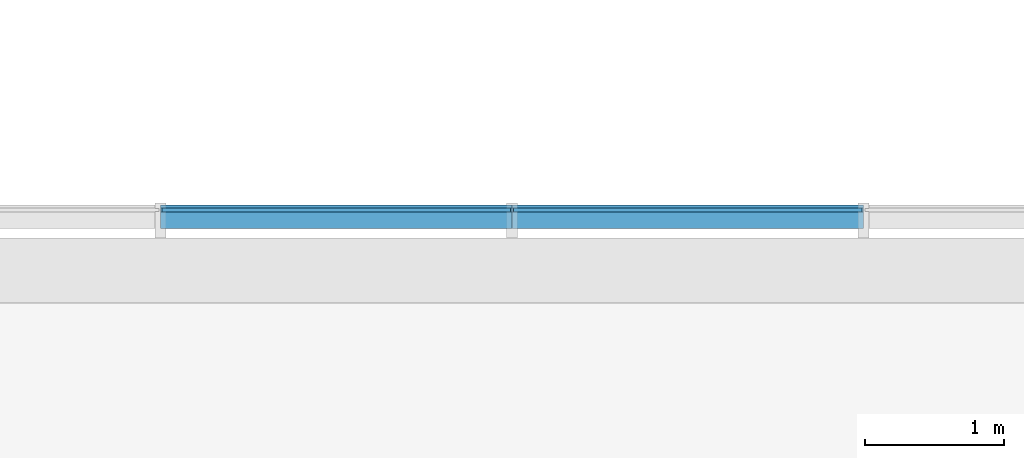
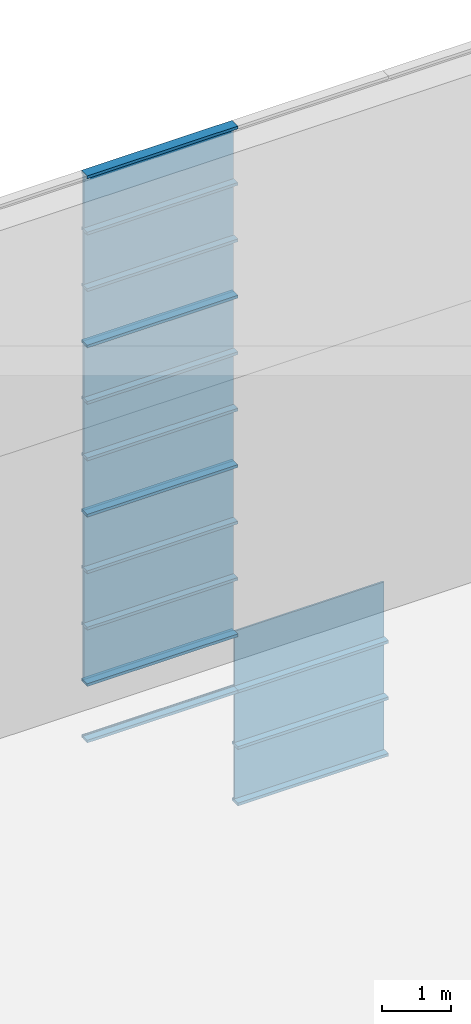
# One storey, part 63 of 105: 29 building element parts, 4 elements without a shape of their own.
"""IFC4 building model written with IfcOpenShell, lengths in millimetres."""

from ifc_helpers import new_model, entity, si_unit, converted_unit, derived_unit, direction, frame, origin_with_axes, place, context, subcontext, project, spatial, triangles, material, element, aggregate, save


model = new_model("IFC4")

# Units and contexts
model_context = context("Model", 3, precision=1e-05, world=origin_with_axes(), true_north=direction((0.0, 1.0)))
body_context = subcontext(model_context, "Body", "Model", "MODEL_VIEW")
ifc_project = project(units=[si_unit("LENGTHUNIT", "METRE", prefix="MILLI"), si_unit("AREAUNIT", "SQUARE_METRE"), si_unit("VOLUMEUNIT", "CUBIC_METRE"), converted_unit("PLANEANGLEUNIT", "DEGREE", entity("IfcLengthMeasure", 0.017453), si_unit("PLANEANGLEUNIT", "RADIAN"), dimensions=[0, 0, 0, 0, 0, 0, 0]), si_unit("SOLIDANGLEUNIT", "STERADIAN"), si_unit("MASSUNIT", "GRAM"), si_unit("TIMEUNIT", "SECOND"), si_unit("THERMODYNAMICTEMPERATUREUNIT", "DEGREE_CELSIUS"), si_unit("LUMINOUSINTENSITYUNIT", "LUMEN"), si_unit("POWERUNIT", "WATT"), derived_unit("THERMALTRANSMITTANCEUNIT", [(si_unit("POWERUNIT", "WATT"), 1), (si_unit("THERMODYNAMICTEMPERATUREUNIT", "KELVIN"), -1), (si_unit("AREAUNIT", "SQUARE_METRE"), -1)])], contexts=[model_context])

# Site, building, storey
site_placement = place(None, origin_with_axes())
site = spatial("IfcSite", under=ifc_project, at=site_placement, Name="Default Site", CompositionType="ELEMENT")
building_placement = place(site_placement, origin_with_axes())
building = spatial("IfcBuilding", under=site, at=building_placement, Name="Default Building", CompositionType="ELEMENT")
storey_placement = place(building_placement, origin_with_axes())
storey = spatial("IfcBuildingStorey", under=building, at=storey_placement, Name="OG - Story", CompositionType="ELEMENT", Elevation=0.0)

# Curtain wall, building element parts
curtain_wall_1_placement = place(storey_placement, origin_with_axes())
curtain_wall_1 = element("IfcCurtainWall", 1, at=curtain_wall_1_placement, inside=storey, Name="Fassade-004", PredefinedType="NOTDEFINED")
ifc_material_1 = material(Name="Normalglas")
building_element_part_1_placement = place(curtain_wall_1_placement, frame((33014.549222, -4389.262838, 0.0), z_axis=(0.0, 0.0, 1.0), x_axis=(1.0, 0.0, 0.0)))
building_element_part_1 = element("IfcBuildingElementPart", 2, at=building_element_part_1_placement, material=ifc_material_1, Name="Normalglas", PredefinedType="NOTDEFINED", context=body_context, shape_type="Tessellation", body=[
    triangles([(44200.526, -14.999, 995.0), (44200.526, 15.0, 995.0), (41694.211, 15.0, 995.0), (41694.211, -14.999, 995.0), (44200.526, -14.999, 5.0), (44200.526, 15.0, 5.0), (41694.211, 15.0, 5.0), (41694.211, -14.999, 5.0)], [[1, 2, 3], [1, 3, 4], [5, 6, 2], [5, 2, 1], [2, 6, 7], [2, 7, 3], [4, 3, 7], [4, 7, 8], [1, 4, 8], [1, 8, 5], [8, 7, 6], [8, 6, 5]], closed=False),
])
building_element_part_2_placement = place(curtain_wall_1_placement, frame((33014.549222, -4389.262838, 0.0), z_axis=(0.0, 0.0, 1.0), x_axis=(1.0, 0.0, 0.0)))
building_element_part_2 = element("IfcBuildingElementPart", 3, at=building_element_part_2_placement, material=ifc_material_1, Name="Normalglas", PredefinedType="NOTDEFINED", context=body_context, shape_type="Tessellation", body=[
    triangles([(44200.526, -14.999, 1995.0), (44200.526, 15.0, 1995.0), (41694.211, 15.0, 1995.0), (41694.211, -14.999, 1995.0), (44200.526, -14.999, 1005.0), (44200.526, 15.0, 1005.0), (41694.211, 15.0, 1005.0), (41694.211, -14.999, 1005.0)], [[1, 2, 3], [1, 3, 4], [5, 6, 2], [5, 2, 1], [2, 6, 7], [2, 7, 3], [4, 3, 7], [4, 7, 8], [1, 4, 8], [1, 8, 5], [8, 7, 6], [8, 6, 5]], closed=False),
])
building_element_part_3_placement = place(curtain_wall_1_placement, frame((33014.549222, -4389.262838, 0.0), z_axis=(0.0, 0.0, 1.0), x_axis=(1.0, 0.0, 0.0)))
building_element_part_3 = element("IfcBuildingElementPart", 4, at=building_element_part_3_placement, material=ifc_material_1, Name="Normalglas", PredefinedType="NOTDEFINED", context=body_context, shape_type="Tessellation", body=[
    triangles([(44200.526, -14.999, 2995.0), (44200.526, 15.0, 2995.0), (41694.211, 15.0, 2995.0), (41694.211, -14.999, 2995.0), (44200.526, -14.999, 2005.0), (44200.526, 15.0, 2005.0), (41694.211, 15.0, 2005.0), (41694.211, -14.999, 2005.0)], [[1, 2, 3], [1, 3, 4], [5, 6, 2], [5, 2, 1], [2, 6, 7], [2, 7, 3], [4, 3, 7], [4, 7, 8], [1, 4, 8], [1, 8, 5], [8, 7, 6], [8, 6, 5]], closed=False),
])
ifc_material_2 = material(Name="Blech")
building_element_part_4_placement = place(curtain_wall_1_placement, frame((33014.549222, -4389.262838, 0.0), z_axis=(0.0, 0.0, 1.0), x_axis=(1.0, 0.0, 0.0)))
building_element_part_4 = element("IfcBuildingElementPart", 5, at=building_element_part_4_placement, material=ifc_material_2, Name="Blech", PredefinedType="NOTDEFINED", context=body_context, shape_type="Tessellation", body=[
    triangles([(44210.526, 35.0, -24.999), (44210.526, 35.0, 25.0), (44210.526, 15.0, 25.0), (44210.526, 15.0, 5.0), (44210.526, -14.999, 5.0), (44210.526, -132.999, 25.0), (44210.526, -132.999, -24.999), (44210.526, -14.999, 25.0), (41684.211, -14.999, 5.0), (41684.211, -14.999, 25.0), (41684.211, -132.999, 25.0), (41684.211, -132.999, -24.999), (41684.211, 35.0, -24.999), (41684.211, 35.0, 25.0), (41684.211, 15.0, 25.0), (41684.211, 15.0, 5.0)], [[1, 2, 3], [1, 3, 4], [1, 4, 5], [1, 5, 6], [1, 6, 7], [8, 6, 5], [5, 9, 10], [5, 10, 8], [10, 11, 6], [10, 6, 8], [11, 12, 7], [11, 7, 6], [12, 13, 1], [12, 1, 7], [13, 14, 2], [13, 2, 1], [3, 2, 14], [3, 14, 15], [15, 16, 4], [15, 4, 3], [4, 16, 9], [4, 9, 5], [15, 16, 13], [13, 16, 9], [13, 9, 11], [11, 9, 10], [13, 11, 12], [15, 13, 14]], closed=False),
])
building_element_part_5_placement = place(curtain_wall_1_placement, frame((33014.549222, -4389.262838, 0.0), z_axis=(0.0, 0.0, 1.0), x_axis=(1.0, 0.0, 0.0)))
building_element_part_5 = element("IfcBuildingElementPart", 6, at=building_element_part_5_placement, material=ifc_material_2, Name="Blech", PredefinedType="NOTDEFINED", context=body_context, shape_type="Tessellation", body=[
    triangles([(44210.526, 35.0, 975.0), (44210.526, 15.0, 975.0), (44210.526, 35.0, 1025.0), (44210.526, 15.0, 995.0), (44210.526, 15.0, 1005.0), (44210.526, -14.999, 995.0), (44210.526, -14.999, 1005.0), (44210.526, -14.999, 1025.0), (44210.526, -14.999, 975.0), (44210.526, -132.999, 975.0), (44210.526, -132.999, 1025.0), (44210.526, 15.0, 1025.0), (41684.211, -14.999, 995.0), (41684.211, 15.0, 995.0), (41684.211, 15.0, 975.0), (41684.211, 35.0, 975.0), (41684.211, 35.0, 1025.0), (41684.211, 15.0, 1025.0), (41684.211, 15.0, 1005.0), (41684.211, -14.999, 1005.0), (41684.211, -14.999, 1025.0), (41684.211, -132.999, 1025.0), (41684.211, -132.999, 975.0), (41684.211, -14.999, 975.0)], [[1, 2, 3], [3, 2, 4], [3, 4, 5], [5, 4, 6], [5, 6, 7], [8, 9, 10], [8, 10, 11], [3, 5, 12], [6, 13, 14], [6, 14, 4], [4, 14, 15], [4, 15, 2], [15, 16, 1], [15, 1, 2], [1, 16, 17], [1, 17, 3], [18, 12, 3], [18, 3, 17], [12, 18, 19], [12, 19, 5], [7, 5, 19], [7, 19, 20], [8, 7, 20], [8, 20, 21], [8, 21, 22], [8, 22, 11], [11, 22, 23], [11, 23, 10], [9, 10, 23], [9, 23, 24], [9, 24, 13], [9, 13, 6], [17, 18, 16], [16, 18, 19], [16, 19, 14], [14, 19, 20], [14, 20, 13], [24, 21, 22], [24, 22, 23], [16, 14, 15]], closed=False),
])
building_element_part_6_placement = place(curtain_wall_1_placement, frame((33014.549222, -4389.262838, 0.0), z_axis=(0.0, 0.0, 1.0), x_axis=(1.0, 0.0, 0.0)))
building_element_part_6 = element("IfcBuildingElementPart", 7, at=building_element_part_6_placement, material=ifc_material_2, Name="Blech", PredefinedType="NOTDEFINED", context=body_context, shape_type="Tessellation", body=[
    triangles([(41684.211, 35.0, 1975.0), (41684.211, 15.0, 1975.0), (41684.211, 35.0, 2025.0), (41684.211, 15.0, 1995.0), (41684.211, 15.0, 2005.0), (41684.211, -14.999, 1995.0), (41684.211, -14.999, 2005.0), (41684.211, -14.999, 2025.0), (41684.211, -14.999, 1975.0), (41684.211, -132.999, 1975.0), (41684.211, -132.999, 2025.0), (41684.211, 15.0, 2025.0), (39157.895, -14.999, 1995.0), (39157.895, 15.0, 1995.0), (39157.895, 15.0, 1975.0), (39157.895, 35.0, 1975.0), (39157.895, 35.0, 2025.0), (39157.895, 15.0, 2025.0), (39157.895, 15.0, 2005.0), (39157.895, -14.999, 2005.0), (39157.895, -14.999, 2025.0), (39157.895, -132.999, 2025.0), (39157.895, -132.999, 1975.0), (39157.895, -14.999, 1975.0)], [[1, 2, 3], [3, 2, 4], [3, 4, 5], [5, 4, 6], [5, 6, 7], [8, 9, 10], [8, 10, 11], [3, 5, 12], [6, 13, 14], [6, 14, 4], [4, 14, 15], [4, 15, 2], [15, 16, 1], [15, 1, 2], [1, 16, 17], [1, 17, 3], [18, 12, 3], [18, 3, 17], [12, 18, 19], [12, 19, 5], [7, 5, 19], [7, 19, 20], [8, 7, 20], [8, 20, 21], [8, 21, 22], [8, 22, 11], [11, 22, 23], [11, 23, 10], [9, 10, 23], [9, 23, 24], [9, 24, 13], [9, 13, 6], [17, 18, 16], [16, 18, 19], [16, 19, 14], [14, 19, 20], [14, 20, 13], [24, 21, 22], [24, 22, 23], [16, 14, 15]], closed=False),
])
building_element_part_7_placement = place(curtain_wall_1_placement, frame((33014.549222, -4389.262838, 0.0), z_axis=(0.0, 0.0, 1.0), x_axis=(1.0, 0.0, 0.0)))
building_element_part_7 = element("IfcBuildingElementPart", 8, at=building_element_part_7_placement, material=ifc_material_2, Name="Blech", PredefinedType="NOTDEFINED", context=body_context, shape_type="Tessellation", body=[
    triangles([(41684.211, 15.0, 2975.0), (41684.211, 15.0, 2995.0), (41684.211, 35.0, 3025.0), (41684.211, -14.999, 2995.0), (41684.211, -132.999, 2975.0), (41684.211, -14.999, 2975.0), (41684.211, -132.999, 3025.0), (41684.211, 35.0, 2975.0), (39157.895, -14.999, 2995.0), (39157.895, 15.0, 2995.0), (39157.895, 15.0, 2975.0), (39157.895, 35.0, 2975.0), (39157.895, 35.0, 3025.0), (39157.895, -132.999, 3025.0), (39157.895, -132.999, 2975.0), (39157.895, -14.999, 2975.0)], [[1, 2, 3], [3, 2, 4], [3, 4, 5], [5, 4, 6], [3, 5, 7], [1, 3, 8], [2, 4, 9], [2, 9, 10], [11, 1, 2], [11, 2, 10], [1, 11, 12], [1, 12, 8], [13, 3, 8], [13, 8, 12], [14, 7, 3], [14, 3, 13], [15, 5, 7], [15, 7, 14], [16, 6, 5], [16, 5, 15], [4, 6, 16], [4, 16, 9], [13, 12, 11], [13, 11, 10], [13, 10, 9], [13, 9, 15], [13, 15, 14], [16, 15, 9]], closed=False),
])
building_element_part_8_placement = place(curtain_wall_1_placement, frame((33014.549222, -4389.262838, 0.0), z_axis=(0.0, 0.0, 1.0), x_axis=(1.0, 0.0, 0.0)))
building_element_part_8 = element("IfcBuildingElementPart", 9, at=building_element_part_8_placement, material=ifc_material_2, Name="Blech", PredefinedType="NOTDEFINED", context=body_context, shape_type="Tessellation", body=[
    triangles([(44210.526, 35.0, 1975.0), (44210.526, 15.0, 1975.0), (44210.526, 35.0, 2025.0), (44210.526, 15.0, 1995.0), (44210.526, 15.0, 2005.0), (44210.526, -14.999, 1995.0), (44210.526, -14.999, 2005.0), (44210.526, -14.999, 2025.0), (44210.526, -14.999, 1975.0), (44210.526, -132.999, 1975.0), (44210.526, -132.999, 2025.0), (44210.526, 15.0, 2025.0), (41684.211, -14.999, 1995.0), (41684.211, 15.0, 1995.0), (41684.211, 15.0, 1975.0), (41684.211, 35.0, 1975.0), (41684.211, 35.0, 2025.0), (41684.211, 15.0, 2025.0), (41684.211, 15.0, 2005.0), (41684.211, -14.999, 2005.0), (41684.211, -14.999, 2025.0), (41684.211, -132.999, 2025.0), (41684.211, -132.999, 1975.0), (41684.211, -14.999, 1975.0)], [[1, 2, 3], [3, 2, 4], [3, 4, 5], [5, 4, 6], [5, 6, 7], [8, 9, 10], [8, 10, 11], [3, 5, 12], [6, 13, 14], [6, 14, 4], [4, 14, 15], [4, 15, 2], [15, 16, 1], [15, 1, 2], [1, 16, 17], [1, 17, 3], [18, 12, 3], [18, 3, 17], [12, 18, 19], [12, 19, 5], [7, 5, 19], [7, 19, 20], [8, 7, 20], [8, 20, 21], [8, 21, 22], [8, 22, 11], [11, 22, 23], [11, 23, 10], [9, 10, 23], [9, 23, 24], [9, 24, 13], [9, 13, 6], [17, 18, 16], [16, 18, 19], [16, 19, 14], [14, 19, 20], [14, 20, 13], [24, 21, 22], [24, 22, 23], [16, 14, 15]], closed=False),
])
aggregate(curtain_wall_1, [building_element_part_1, building_element_part_2, building_element_part_3, building_element_part_4, building_element_part_5, building_element_part_6, building_element_part_7, building_element_part_8])

curtain_wall_2_placement = place(storey_placement, origin_with_axes())
curtain_wall_2 = element("IfcCurtainWall", 10, at=curtain_wall_2_placement, inside=storey, Name="Fassade-004", PredefinedType="NOTDEFINED")
building_element_part_9_placement = place(curtain_wall_2_placement, frame((33014.549222, -4389.262838, 3000.0), z_axis=(0.0, 0.0, 1.0), x_axis=(1.0, 0.0, 0.0)))
building_element_part_9 = element("IfcBuildingElementPart", 11, at=building_element_part_9_placement, material=ifc_material_1, Name="Normalglas", PredefinedType="NOTDEFINED", context=body_context, shape_type="Tessellation", body=[
    triangles([(41674.211, -14.999, 995.0), (41674.211, 15.0, 995.0), (39167.895, 15.0, 995.0), (39167.895, -14.999, 995.0), (41674.211, -14.999, 5.0), (41674.211, 15.0, 5.0), (39167.895, 15.0, 5.0), (39167.895, -14.999, 5.0)], [[1, 2, 3], [1, 3, 4], [5, 6, 2], [5, 2, 1], [2, 6, 7], [2, 7, 3], [4, 3, 7], [4, 7, 8], [1, 4, 8], [1, 8, 5], [8, 7, 6], [8, 6, 5]], closed=False),
])
building_element_part_10_placement = place(curtain_wall_2_placement, frame((33014.549222, -4389.262838, 3000.0), z_axis=(0.0, 0.0, 1.0), x_axis=(1.0, 0.0, 0.0)))
building_element_part_10 = element("IfcBuildingElementPart", 12, at=building_element_part_10_placement, material=ifc_material_1, Name="Normalglas", PredefinedType="NOTDEFINED", context=body_context, shape_type="Tessellation", body=[
    triangles([(41674.211, -14.999, 1995.0), (41674.211, 15.0, 1995.0), (39167.895, 15.0, 1995.0), (39167.895, -14.999, 1995.0), (41674.211, -14.999, 1005.0), (41674.211, 15.0, 1005.0), (39167.895, 15.0, 1005.0), (39167.895, -14.999, 1005.0)], [[1, 2, 3], [1, 3, 4], [5, 6, 2], [5, 2, 1], [2, 6, 7], [2, 7, 3], [4, 3, 7], [4, 7, 8], [1, 4, 8], [1, 8, 5], [8, 7, 6], [8, 6, 5]], closed=False),
])
building_element_part_11_placement = place(curtain_wall_2_placement, frame((33014.549222, -4389.262838, 3000.0), z_axis=(0.0, 0.0, 1.0), x_axis=(1.0, 0.0, 0.0)))
building_element_part_11 = element("IfcBuildingElementPart", 13, at=building_element_part_11_placement, material=ifc_material_1, Name="Normalglas", PredefinedType="NOTDEFINED", context=body_context, shape_type="Tessellation", body=[
    triangles([(41674.211, -14.999, 2995.0), (41674.211, 15.0, 2995.0), (39167.895, 15.0, 2995.0), (39167.895, -14.999, 2995.0), (41674.211, -14.999, 2005.0), (41674.211, 15.0, 2005.0), (39167.895, 15.0, 2005.0), (39167.895, -14.999, 2005.0)], [[1, 2, 3], [1, 3, 4], [5, 6, 2], [5, 2, 1], [2, 6, 7], [2, 7, 3], [4, 3, 7], [4, 7, 8], [1, 4, 8], [1, 8, 5], [8, 7, 6], [8, 6, 5]], closed=False),
])
building_element_part_12_placement = place(curtain_wall_2_placement, frame((33014.549222, -4389.262838, 3000.0), z_axis=(0.0, 0.0, 1.0), x_axis=(1.0, 0.0, 0.0)))
building_element_part_12 = element("IfcBuildingElementPart", 14, at=building_element_part_12_placement, material=ifc_material_2, Name="Blech", PredefinedType="NOTDEFINED", context=body_context, shape_type="Tessellation", body=[
    triangles([(41684.211, 35.0, -24.999), (41684.211, 35.0, 25.0), (41684.211, 15.0, 25.0), (41684.211, 15.0, 5.0), (41684.211, -14.999, 5.0), (41684.211, -132.999, 25.0), (41684.211, -132.999, -24.999), (41684.211, -14.999, 25.0), (39157.895, -14.999, 5.0), (39157.895, -14.999, 25.0), (39157.895, -132.999, 25.0), (39157.895, -132.999, -24.999), (39157.895, 35.0, -24.999), (39157.895, 35.0, 25.0), (39157.895, 15.0, 25.0), (39157.895, 15.0, 5.0)], [[1, 2, 3], [1, 3, 4], [1, 4, 5], [1, 5, 6], [1, 6, 7], [8, 6, 5], [5, 9, 10], [5, 10, 8], [10, 11, 6], [10, 6, 8], [11, 12, 7], [11, 7, 6], [12, 13, 1], [12, 1, 7], [13, 14, 2], [13, 2, 1], [3, 2, 14], [3, 14, 15], [15, 16, 4], [15, 4, 3], [4, 16, 9], [4, 9, 5], [15, 16, 13], [13, 16, 9], [13, 9, 11], [11, 9, 10], [13, 11, 12], [15, 13, 14]], closed=False),
])
building_element_part_13_placement = place(curtain_wall_2_placement, frame((33014.549222, -4389.262838, 3000.0), z_axis=(0.0, 0.0, 1.0), x_axis=(1.0, 0.0, 0.0)))
building_element_part_13 = element("IfcBuildingElementPart", 15, at=building_element_part_13_placement, material=ifc_material_2, Name="Blech", PredefinedType="NOTDEFINED", context=body_context, shape_type="Tessellation", body=[
    triangles([(41684.211, 35.0, 975.0), (41684.211, 15.0, 975.0), (41684.211, 35.0, 1025.0), (41684.211, 15.0, 995.0), (41684.211, 15.0, 1005.0), (41684.211, -14.999, 995.0), (41684.211, -14.999, 1005.0), (41684.211, -14.999, 1025.0), (41684.211, -14.999, 975.0), (41684.211, -132.999, 975.0), (41684.211, -132.999, 1025.0), (41684.211, 15.0, 1025.0), (39157.895, -14.999, 995.0), (39157.895, 15.0, 995.0), (39157.895, 15.0, 975.0), (39157.895, 35.0, 975.0), (39157.895, 35.0, 1025.0), (39157.895, 15.0, 1025.0), (39157.895, 15.0, 1005.0), (39157.895, -14.999, 1005.0), (39157.895, -14.999, 1025.0), (39157.895, -132.999, 1025.0), (39157.895, -132.999, 975.0), (39157.895, -14.999, 975.0)], [[1, 2, 3], [3, 2, 4], [3, 4, 5], [5, 4, 6], [5, 6, 7], [8, 9, 10], [8, 10, 11], [3, 5, 12], [6, 13, 14], [6, 14, 4], [4, 14, 15], [4, 15, 2], [15, 16, 1], [15, 1, 2], [1, 16, 17], [1, 17, 3], [18, 12, 3], [18, 3, 17], [12, 18, 19], [12, 19, 5], [7, 5, 19], [7, 19, 20], [8, 7, 20], [8, 20, 21], [8, 21, 22], [8, 22, 11], [11, 22, 23], [11, 23, 10], [9, 10, 23], [9, 23, 24], [9, 24, 13], [9, 13, 6], [17, 18, 16], [16, 18, 19], [16, 19, 14], [14, 19, 20], [14, 20, 13], [24, 21, 22], [24, 22, 23], [16, 14, 15]], closed=False),
])
building_element_part_14_placement = place(curtain_wall_2_placement, frame((33014.549222, -4389.262838, 3000.0), z_axis=(0.0, 0.0, 1.0), x_axis=(1.0, 0.0, 0.0)))
building_element_part_14 = element("IfcBuildingElementPart", 16, at=building_element_part_14_placement, material=ifc_material_2, Name="Blech", PredefinedType="NOTDEFINED", context=body_context, shape_type="Tessellation", body=[
    triangles([(41684.211, 35.0, 1975.0), (41684.211, 15.0, 1975.0), (41684.211, 35.0, 2025.0), (41684.211, 15.0, 1995.0), (41684.211, 15.0, 2005.0), (41684.211, -14.999, 1995.0), (41684.211, -14.999, 2005.0), (41684.211, -14.999, 2025.0), (41684.211, -14.999, 1975.0), (41684.211, -132.999, 1975.0), (41684.211, -132.999, 2025.0), (41684.211, 15.0, 2025.0), (39157.895, -14.999, 1995.0), (39157.895, 15.0, 1995.0), (39157.895, 15.0, 1975.0), (39157.895, 35.0, 1975.0), (39157.895, 35.0, 2025.0), (39157.895, 15.0, 2025.0), (39157.895, 15.0, 2005.0), (39157.895, -14.999, 2005.0), (39157.895, -14.999, 2025.0), (39157.895, -132.999, 2025.0), (39157.895, -132.999, 1975.0), (39157.895, -14.999, 1975.0)], [[1, 2, 3], [3, 2, 4], [3, 4, 5], [5, 4, 6], [5, 6, 7], [8, 9, 10], [8, 10, 11], [3, 5, 12], [6, 13, 14], [6, 14, 4], [4, 14, 15], [4, 15, 2], [15, 16, 1], [15, 1, 2], [1, 16, 17], [1, 17, 3], [18, 12, 3], [18, 3, 17], [12, 18, 19], [12, 19, 5], [7, 5, 19], [7, 19, 20], [8, 7, 20], [8, 20, 21], [8, 21, 22], [8, 22, 11], [11, 22, 23], [11, 23, 10], [9, 10, 23], [9, 23, 24], [9, 24, 13], [9, 13, 6], [17, 18, 16], [16, 18, 19], [16, 19, 14], [14, 19, 20], [14, 20, 13], [24, 21, 22], [24, 22, 23], [16, 14, 15]], closed=False),
])
building_element_part_15_placement = place(curtain_wall_2_placement, frame((33014.549222, -4389.262838, 3000.0), z_axis=(0.0, 0.0, 1.0), x_axis=(1.0, 0.0, 0.0)))
building_element_part_15 = element("IfcBuildingElementPart", 17, at=building_element_part_15_placement, material=ifc_material_2, Name="Blech", PredefinedType="NOTDEFINED", context=body_context, shape_type="Tessellation", body=[
    triangles([(41684.211, 15.0, 2975.0), (41684.211, 15.0, 2995.0), (41684.211, 35.0, 3025.0), (41684.211, -14.999, 2995.0), (41684.211, -132.999, 2975.0), (41684.211, -14.999, 2975.0), (41684.211, -132.999, 3025.0), (41684.211, 35.0, 2975.0), (39157.895, -14.999, 2995.0), (39157.895, 15.0, 2995.0), (39157.895, 15.0, 2975.0), (39157.895, 35.0, 2975.0), (39157.895, 35.0, 3025.0), (39157.895, -132.999, 3025.0), (39157.895, -132.999, 2975.0), (39157.895, -14.999, 2975.0)], [[1, 2, 3], [3, 2, 4], [3, 4, 5], [5, 4, 6], [3, 5, 7], [1, 3, 8], [2, 4, 9], [2, 9, 10], [11, 1, 2], [11, 2, 10], [1, 11, 12], [1, 12, 8], [13, 3, 8], [13, 8, 12], [14, 7, 3], [14, 3, 13], [15, 5, 7], [15, 7, 14], [16, 6, 5], [16, 5, 15], [4, 6, 16], [4, 16, 9], [13, 12, 11], [13, 11, 10], [13, 10, 9], [13, 9, 15], [13, 15, 14], [16, 15, 9]], closed=False),
])
aggregate(curtain_wall_2, [building_element_part_9, building_element_part_10, building_element_part_11, building_element_part_12, building_element_part_13, building_element_part_14, building_element_part_15])

curtain_wall_3_placement = place(storey_placement, origin_with_axes())
curtain_wall_3 = element("IfcCurtainWall", 18, at=curtain_wall_3_placement, inside=storey, Name="Fassade-004", PredefinedType="NOTDEFINED")
building_element_part_16_placement = place(curtain_wall_3_placement, frame((33014.549222, -4389.262838, 6000.0), z_axis=(0.0, 0.0, 1.0), x_axis=(1.0, 0.0, 0.0)))
building_element_part_16 = element("IfcBuildingElementPart", 19, at=building_element_part_16_placement, material=ifc_material_1, Name="Normalglas", PredefinedType="NOTDEFINED", context=body_context, shape_type="Tessellation", body=[
    triangles([(41674.211, -14.999, 995.0), (41674.211, 15.0, 995.0), (39167.895, 15.0, 995.0), (39167.895, -14.999, 995.0), (41674.211, -14.999, 5.0), (41674.211, 15.0, 5.0), (39167.895, 15.0, 5.0), (39167.895, -14.999, 5.0)], [[1, 2, 3], [1, 3, 4], [5, 6, 2], [5, 2, 1], [2, 6, 7], [2, 7, 3], [4, 3, 7], [4, 7, 8], [1, 4, 8], [1, 8, 5], [8, 7, 6], [8, 6, 5]], closed=False),
])
building_element_part_17_placement = place(curtain_wall_3_placement, frame((33014.549222, -4389.262838, 6000.0), z_axis=(0.0, 0.0, 1.0), x_axis=(1.0, 0.0, 0.0)))
building_element_part_17 = element("IfcBuildingElementPart", 20, at=building_element_part_17_placement, material=ifc_material_1, Name="Normalglas", PredefinedType="NOTDEFINED", context=body_context, shape_type="Tessellation", body=[
    triangles([(41674.211, -14.999, 1995.0), (41674.211, 15.0, 1995.0), (39167.895, 15.0, 1995.0), (39167.895, -14.999, 1995.0), (41674.211, -14.999, 1005.0), (41674.211, 15.0, 1005.0), (39167.895, 15.0, 1005.0), (39167.895, -14.999, 1005.0)], [[1, 2, 3], [1, 3, 4], [5, 6, 2], [5, 2, 1], [2, 6, 7], [2, 7, 3], [4, 3, 7], [4, 7, 8], [1, 4, 8], [1, 8, 5], [8, 7, 6], [8, 6, 5]], closed=False),
])
building_element_part_18_placement = place(curtain_wall_3_placement, frame((33014.549222, -4389.262838, 6000.0), z_axis=(0.0, 0.0, 1.0), x_axis=(1.0, 0.0, 0.0)))
building_element_part_18 = element("IfcBuildingElementPart", 21, at=building_element_part_18_placement, material=ifc_material_1, Name="Normalglas", PredefinedType="NOTDEFINED", context=body_context, shape_type="Tessellation", body=[
    triangles([(41674.211, -14.999, 2995.0), (41674.211, 15.0, 2995.0), (39167.895, 15.0, 2995.0), (39167.895, -14.999, 2995.0), (41674.211, -14.999, 2005.0), (41674.211, 15.0, 2005.0), (39167.895, 15.0, 2005.0), (39167.895, -14.999, 2005.0)], [[1, 2, 3], [1, 3, 4], [5, 6, 2], [5, 2, 1], [2, 6, 7], [2, 7, 3], [4, 3, 7], [4, 7, 8], [1, 4, 8], [1, 8, 5], [8, 7, 6], [8, 6, 5]], closed=False),
])
building_element_part_19_placement = place(curtain_wall_3_placement, frame((33014.549222, -4389.262838, 6000.0), z_axis=(0.0, 0.0, 1.0), x_axis=(1.0, 0.0, 0.0)))
building_element_part_19 = element("IfcBuildingElementPart", 22, at=building_element_part_19_placement, material=ifc_material_2, Name="Blech", PredefinedType="NOTDEFINED", context=body_context, shape_type="Tessellation", body=[
    triangles([(41684.211, 35.0, -24.999), (41684.211, 35.0, 25.0), (41684.211, 15.0, 25.0), (41684.211, 15.0, 5.0), (41684.211, -14.999, 5.0), (41684.211, -132.999, 25.0), (41684.211, -132.999, -24.999), (41684.211, -14.999, 25.0), (39157.895, -14.999, 5.0), (39157.895, -14.999, 25.0), (39157.895, -132.999, 25.0), (39157.895, -132.999, -24.999), (39157.895, 35.0, -24.999), (39157.895, 35.0, 25.0), (39157.895, 15.0, 25.0), (39157.895, 15.0, 5.0)], [[1, 2, 3], [1, 3, 4], [1, 4, 5], [1, 5, 6], [1, 6, 7], [8, 6, 5], [5, 9, 10], [5, 10, 8], [10, 11, 6], [10, 6, 8], [11, 12, 7], [11, 7, 6], [12, 13, 1], [12, 1, 7], [13, 14, 2], [13, 2, 1], [3, 2, 14], [3, 14, 15], [15, 16, 4], [15, 4, 3], [4, 16, 9], [4, 9, 5], [15, 16, 13], [13, 16, 9], [13, 9, 11], [11, 9, 10], [13, 11, 12], [15, 13, 14]], closed=False),
])
building_element_part_20_placement = place(curtain_wall_3_placement, frame((33014.549222, -4389.262838, 6000.0), z_axis=(0.0, 0.0, 1.0), x_axis=(1.0, 0.0, 0.0)))
building_element_part_20 = element("IfcBuildingElementPart", 23, at=building_element_part_20_placement, material=ifc_material_2, Name="Blech", PredefinedType="NOTDEFINED", context=body_context, shape_type="Tessellation", body=[
    triangles([(41684.211, 35.0, 975.0), (41684.211, 15.0, 975.0), (41684.211, 35.0, 1025.0), (41684.211, 15.0, 995.0), (41684.211, 15.0, 1005.0), (41684.211, -14.999, 995.0), (41684.211, -14.999, 1005.0), (41684.211, -14.999, 1025.0), (41684.211, -14.999, 975.0), (41684.211, -132.999, 975.0), (41684.211, -132.999, 1025.0), (41684.211, 15.0, 1025.0), (39157.895, -14.999, 995.0), (39157.895, 15.0, 995.0), (39157.895, 15.0, 975.0), (39157.895, 35.0, 975.0), (39157.895, 35.0, 1025.0), (39157.895, 15.0, 1025.0), (39157.895, 15.0, 1005.0), (39157.895, -14.999, 1005.0), (39157.895, -14.999, 1025.0), (39157.895, -132.999, 1025.0), (39157.895, -132.999, 975.0), (39157.895, -14.999, 975.0)], [[1, 2, 3], [3, 2, 4], [3, 4, 5], [5, 4, 6], [5, 6, 7], [8, 9, 10], [8, 10, 11], [3, 5, 12], [6, 13, 14], [6, 14, 4], [4, 14, 15], [4, 15, 2], [15, 16, 1], [15, 1, 2], [1, 16, 17], [1, 17, 3], [18, 12, 3], [18, 3, 17], [12, 18, 19], [12, 19, 5], [7, 5, 19], [7, 19, 20], [8, 7, 20], [8, 20, 21], [8, 21, 22], [8, 22, 11], [11, 22, 23], [11, 23, 10], [9, 10, 23], [9, 23, 24], [9, 24, 13], [9, 13, 6], [17, 18, 16], [16, 18, 19], [16, 19, 14], [14, 19, 20], [14, 20, 13], [24, 21, 22], [24, 22, 23], [16, 14, 15]], closed=False),
])
building_element_part_21_placement = place(curtain_wall_3_placement, frame((33014.549222, -4389.262838, 6000.0), z_axis=(0.0, 0.0, 1.0), x_axis=(1.0, 0.0, 0.0)))
building_element_part_21 = element("IfcBuildingElementPart", 24, at=building_element_part_21_placement, material=ifc_material_2, Name="Blech", PredefinedType="NOTDEFINED", context=body_context, shape_type="Tessellation", body=[
    triangles([(41684.211, 35.0, 1975.0), (41684.211, 15.0, 1975.0), (41684.211, 35.0, 2025.0), (41684.211, 15.0, 1995.0), (41684.211, 15.0, 2005.0), (41684.211, -14.999, 1995.0), (41684.211, -14.999, 2005.0), (41684.211, -14.999, 2025.0), (41684.211, -14.999, 1975.0), (41684.211, -132.999, 1975.0), (41684.211, -132.999, 2025.0), (41684.211, 15.0, 2025.0), (39157.895, -14.999, 1995.0), (39157.895, 15.0, 1995.0), (39157.895, 15.0, 1975.0), (39157.895, 35.0, 1975.0), (39157.895, 35.0, 2025.0), (39157.895, 15.0, 2025.0), (39157.895, 15.0, 2005.0), (39157.895, -14.999, 2005.0), (39157.895, -14.999, 2025.0), (39157.895, -132.999, 2025.0), (39157.895, -132.999, 1975.0), (39157.895, -14.999, 1975.0)], [[1, 2, 3], [3, 2, 4], [3, 4, 5], [5, 4, 6], [5, 6, 7], [8, 9, 10], [8, 10, 11], [3, 5, 12], [6, 13, 14], [6, 14, 4], [4, 14, 15], [4, 15, 2], [15, 16, 1], [15, 1, 2], [1, 16, 17], [1, 17, 3], [18, 12, 3], [18, 3, 17], [12, 18, 19], [12, 19, 5], [7, 5, 19], [7, 19, 20], [8, 7, 20], [8, 20, 21], [8, 21, 22], [8, 22, 11], [11, 22, 23], [11, 23, 10], [9, 10, 23], [9, 23, 24], [9, 24, 13], [9, 13, 6], [17, 18, 16], [16, 18, 19], [16, 19, 14], [14, 19, 20], [14, 20, 13], [24, 21, 22], [24, 22, 23], [16, 14, 15]], closed=False),
])
building_element_part_22_placement = place(curtain_wall_3_placement, frame((33014.549222, -4389.262838, 6000.0), z_axis=(0.0, 0.0, 1.0), x_axis=(1.0, 0.0, 0.0)))
building_element_part_22 = element("IfcBuildingElementPart", 25, at=building_element_part_22_placement, material=ifc_material_2, Name="Blech", PredefinedType="NOTDEFINED", context=body_context, shape_type="Tessellation", body=[
    triangles([(41684.211, 15.0, 2975.0), (41684.211, 15.0, 2995.0), (41684.211, 35.0, 3025.0), (41684.211, -14.999, 2995.0), (41684.211, -132.999, 2975.0), (41684.211, -14.999, 2975.0), (41684.211, -132.999, 3025.0), (41684.211, 35.0, 2975.0), (39157.895, -14.999, 2995.0), (39157.895, 15.0, 2995.0), (39157.895, 15.0, 2975.0), (39157.895, 35.0, 2975.0), (39157.895, 35.0, 3025.0), (39157.895, -132.999, 3025.0), (39157.895, -132.999, 2975.0), (39157.895, -14.999, 2975.0)], [[1, 2, 3], [3, 2, 4], [3, 4, 5], [5, 4, 6], [3, 5, 7], [1, 3, 8], [2, 4, 9], [2, 9, 10], [11, 1, 2], [11, 2, 10], [1, 11, 12], [1, 12, 8], [13, 3, 8], [13, 8, 12], [14, 7, 3], [14, 3, 13], [15, 5, 7], [15, 7, 14], [16, 6, 5], [16, 5, 15], [4, 6, 16], [4, 16, 9], [13, 12, 11], [13, 11, 10], [13, 10, 9], [13, 9, 15], [13, 15, 14], [16, 15, 9]], closed=False),
])
aggregate(curtain_wall_3, [building_element_part_16, building_element_part_17, building_element_part_18, building_element_part_19, building_element_part_20, building_element_part_21, building_element_part_22])

curtain_wall_4_placement = place(storey_placement, origin_with_axes())
curtain_wall_4 = element("IfcCurtainWall", 26, at=curtain_wall_4_placement, inside=storey, Name="Fassade-004", PredefinedType="NOTDEFINED")
building_element_part_23_placement = place(curtain_wall_4_placement, frame((33014.549222, -4389.262838, 9000.0), z_axis=(0.0, 0.0, 1.0), x_axis=(1.0, 0.0, 0.0)))
building_element_part_23 = element("IfcBuildingElementPart", 27, at=building_element_part_23_placement, material=ifc_material_1, Name="Normalglas", PredefinedType="NOTDEFINED", context=body_context, shape_type="Tessellation", body=[
    triangles([(41674.211, -14.999, 995.0), (41674.211, 15.0, 995.0), (39167.895, 15.0, 995.0), (39167.895, -14.999, 995.0), (41674.211, -14.999, 5.0), (41674.211, 15.0, 5.0), (39167.895, 15.0, 5.0), (39167.895, -14.999, 5.0)], [[1, 2, 3], [1, 3, 4], [5, 6, 2], [5, 2, 1], [2, 6, 7], [2, 7, 3], [4, 3, 7], [4, 7, 8], [1, 4, 8], [1, 8, 5], [8, 7, 6], [8, 6, 5]], closed=False),
])
building_element_part_24_placement = place(curtain_wall_4_placement, frame((33014.549222, -4389.262838, 9000.0), z_axis=(0.0, 0.0, 1.0), x_axis=(1.0, 0.0, 0.0)))
building_element_part_24 = element("IfcBuildingElementPart", 28, at=building_element_part_24_placement, material=ifc_material_1, Name="Normalglas", PredefinedType="NOTDEFINED", context=body_context, shape_type="Tessellation", body=[
    triangles([(41674.211, -14.999, 1995.0), (41674.211, 15.0, 1995.0), (39167.895, 15.0, 1995.0), (39167.895, -14.999, 1995.0), (41674.211, -14.999, 1005.0), (41674.211, 15.0, 1005.0), (39167.895, 15.0, 1005.0), (39167.895, -14.999, 1005.0)], [[1, 2, 3], [1, 3, 4], [5, 6, 2], [5, 2, 1], [2, 6, 7], [2, 7, 3], [4, 3, 7], [4, 7, 8], [1, 4, 8], [1, 8, 5], [8, 7, 6], [8, 6, 5]], closed=False),
])
building_element_part_25_placement = place(curtain_wall_4_placement, frame((33014.549222, -4389.262838, 9000.0), z_axis=(0.0, 0.0, 1.0), x_axis=(1.0, 0.0, 0.0)))
building_element_part_25 = element("IfcBuildingElementPart", 29, at=building_element_part_25_placement, material=ifc_material_1, Name="Normalglas", PredefinedType="NOTDEFINED", context=body_context, shape_type="Tessellation", body=[
    triangles([(41674.211, -14.999, 2995.0), (41674.211, 15.0, 2995.0), (39167.895, 15.0, 2995.0), (39167.895, -14.999, 2995.0), (41674.211, -14.999, 2005.0), (41674.211, 15.0, 2005.0), (39167.895, 15.0, 2005.0), (39167.895, -14.999, 2005.0)], [[1, 2, 3], [1, 3, 4], [5, 6, 2], [5, 2, 1], [2, 6, 7], [2, 7, 3], [4, 3, 7], [4, 7, 8], [1, 4, 8], [1, 8, 5], [8, 7, 6], [8, 6, 5]], closed=False),
])
building_element_part_26_placement = place(curtain_wall_4_placement, frame((33014.549222, -4389.262838, 9000.0), z_axis=(0.0, 0.0, 1.0), x_axis=(1.0, 0.0, 0.0)))
building_element_part_26 = element("IfcBuildingElementPart", 30, at=building_element_part_26_placement, material=ifc_material_2, Name="Blech", PredefinedType="NOTDEFINED", context=body_context, shape_type="Tessellation", body=[
    triangles([(41684.211, 35.0, -24.999), (41684.211, 35.0, 25.0), (41684.211, 15.0, 25.0), (41684.211, 15.0, 5.0), (41684.211, -14.999, 5.0), (41684.211, -132.999, 25.0), (41684.211, -132.999, -24.999), (41684.211, -14.999, 25.0), (39157.895, -14.999, 5.0), (39157.895, -14.999, 25.0), (39157.895, -132.999, 25.0), (39157.895, -132.999, -24.999), (39157.895, 35.0, -24.999), (39157.895, 35.0, 25.0), (39157.895, 15.0, 25.0), (39157.895, 15.0, 5.0)], [[1, 2, 3], [1, 3, 4], [1, 4, 5], [1, 5, 6], [1, 6, 7], [8, 6, 5], [5, 9, 10], [5, 10, 8], [10, 11, 6], [10, 6, 8], [11, 12, 7], [11, 7, 6], [12, 13, 1], [12, 1, 7], [13, 14, 2], [13, 2, 1], [3, 2, 14], [3, 14, 15], [15, 16, 4], [15, 4, 3], [4, 16, 9], [4, 9, 5], [15, 16, 13], [13, 16, 9], [13, 9, 11], [11, 9, 10], [13, 11, 12], [15, 13, 14]], closed=False),
])
building_element_part_27_placement = place(curtain_wall_4_placement, frame((33014.549222, -4389.262838, 9000.0), z_axis=(0.0, 0.0, 1.0), x_axis=(1.0, 0.0, 0.0)))
building_element_part_27 = element("IfcBuildingElementPart", 31, at=building_element_part_27_placement, material=ifc_material_2, Name="Blech", PredefinedType="NOTDEFINED", context=body_context, shape_type="Tessellation", body=[
    triangles([(41684.211, 35.0, 975.0), (41684.211, 15.0, 975.0), (41684.211, 35.0, 1025.0), (41684.211, 15.0, 995.0), (41684.211, 15.0, 1005.0), (41684.211, -14.999, 995.0), (41684.211, -14.999, 1005.0), (41684.211, -14.999, 1025.0), (41684.211, -14.999, 975.0), (41684.211, -132.999, 975.0), (41684.211, -132.999, 1025.0), (41684.211, 15.0, 1025.0), (39157.895, -14.999, 995.0), (39157.895, 15.0, 995.0), (39157.895, 15.0, 975.0), (39157.895, 35.0, 975.0), (39157.895, 35.0, 1025.0), (39157.895, 15.0, 1025.0), (39157.895, 15.0, 1005.0), (39157.895, -14.999, 1005.0), (39157.895, -14.999, 1025.0), (39157.895, -132.999, 1025.0), (39157.895, -132.999, 975.0), (39157.895, -14.999, 975.0)], [[1, 2, 3], [3, 2, 4], [3, 4, 5], [5, 4, 6], [5, 6, 7], [8, 9, 10], [8, 10, 11], [3, 5, 12], [6, 13, 14], [6, 14, 4], [4, 14, 15], [4, 15, 2], [15, 16, 1], [15, 1, 2], [1, 16, 17], [1, 17, 3], [18, 12, 3], [18, 3, 17], [12, 18, 19], [12, 19, 5], [7, 5, 19], [7, 19, 20], [8, 7, 20], [8, 20, 21], [8, 21, 22], [8, 22, 11], [11, 22, 23], [11, 23, 10], [9, 10, 23], [9, 23, 24], [9, 24, 13], [9, 13, 6], [17, 18, 16], [16, 18, 19], [16, 19, 14], [14, 19, 20], [14, 20, 13], [24, 21, 22], [24, 22, 23], [16, 14, 15]], closed=False),
])
building_element_part_28_placement = place(curtain_wall_4_placement, frame((33014.549222, -4389.262838, 9000.0), z_axis=(0.0, 0.0, 1.0), x_axis=(1.0, 0.0, 0.0)))
building_element_part_28 = element("IfcBuildingElementPart", 32, at=building_element_part_28_placement, material=ifc_material_2, Name="Blech", PredefinedType="NOTDEFINED", context=body_context, shape_type="Tessellation", body=[
    triangles([(41684.211, 35.0, 1975.0), (41684.211, 15.0, 1975.0), (41684.211, 35.0, 2025.0), (41684.211, 15.0, 1995.0), (41684.211, 15.0, 2005.0), (41684.211, -14.999, 1995.0), (41684.211, -14.999, 2005.0), (41684.211, -14.999, 2025.0), (41684.211, -14.999, 1975.0), (41684.211, -132.999, 1975.0), (41684.211, -132.999, 2025.0), (41684.211, 15.0, 2025.0), (39157.895, -14.999, 1995.0), (39157.895, 15.0, 1995.0), (39157.895, 15.0, 1975.0), (39157.895, 35.0, 1975.0), (39157.895, 35.0, 2025.0), (39157.895, 15.0, 2025.0), (39157.895, 15.0, 2005.0), (39157.895, -14.999, 2005.0), (39157.895, -14.999, 2025.0), (39157.895, -132.999, 2025.0), (39157.895, -132.999, 1975.0), (39157.895, -14.999, 1975.0)], [[1, 2, 3], [3, 2, 4], [3, 4, 5], [5, 4, 6], [5, 6, 7], [8, 9, 10], [8, 10, 11], [3, 5, 12], [6, 13, 14], [6, 14, 4], [4, 14, 15], [4, 15, 2], [15, 16, 1], [15, 1, 2], [1, 16, 17], [1, 17, 3], [18, 12, 3], [18, 3, 17], [12, 18, 19], [12, 19, 5], [7, 5, 19], [7, 19, 20], [8, 7, 20], [8, 20, 21], [8, 21, 22], [8, 22, 11], [11, 22, 23], [11, 23, 10], [9, 10, 23], [9, 23, 24], [9, 24, 13], [9, 13, 6], [17, 18, 16], [16, 18, 19], [16, 19, 14], [14, 19, 20], [14, 20, 13], [24, 21, 22], [24, 22, 23], [16, 14, 15]], closed=False),
])
building_element_part_29_placement = place(curtain_wall_4_placement, frame((33014.549222, -4389.262838, 9000.0), z_axis=(0.0, 0.0, 1.0), x_axis=(1.0, 0.0, 0.0)))
building_element_part_29 = element("IfcBuildingElementPart", 33, at=building_element_part_29_placement, material=ifc_material_2, Name="Blech", PredefinedType="NOTDEFINED", context=body_context, shape_type="Tessellation", body=[
    triangles([(41684.211, 15.0, 2975.0), (41684.211, 15.0, 2995.0), (41684.211, 35.0, 3025.0), (41684.211, -14.999, 2995.0), (41684.211, -132.999, 2975.0), (41684.211, -14.999, 2975.0), (41684.211, -132.999, 3025.0), (41684.211, 35.0, 2975.0), (39157.895, -14.999, 2995.0), (39157.895, 15.0, 2995.0), (39157.895, 15.0, 2975.0), (39157.895, 35.0, 2975.0), (39157.895, 35.0, 3025.0), (39157.895, -132.999, 3025.0), (39157.895, -132.999, 2975.0), (39157.895, -14.999, 2975.0)], [[1, 2, 3], [3, 2, 4], [3, 4, 5], [5, 4, 6], [3, 5, 7], [1, 3, 8], [2, 4, 9], [2, 9, 10], [11, 1, 2], [11, 2, 10], [1, 11, 12], [1, 12, 8], [13, 3, 8], [13, 8, 12], [14, 7, 3], [14, 3, 13], [15, 5, 7], [15, 7, 14], [16, 6, 5], [16, 5, 15], [4, 6, 16], [4, 16, 9], [13, 12, 11], [13, 11, 10], [13, 10, 9], [13, 9, 15], [13, 15, 14], [16, 15, 9]], closed=False),
])
aggregate(curtain_wall_4, [building_element_part_23, building_element_part_24, building_element_part_25, building_element_part_26, building_element_part_27, building_element_part_28, building_element_part_29])

save(model, "model.ifc")
